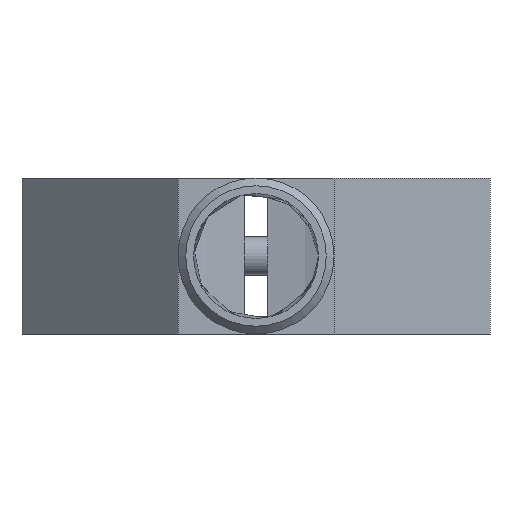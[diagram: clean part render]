
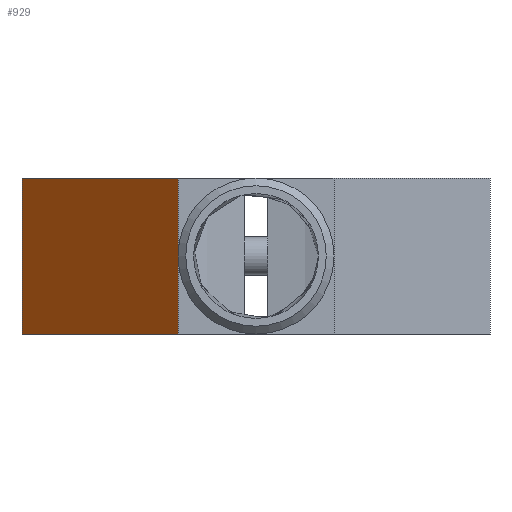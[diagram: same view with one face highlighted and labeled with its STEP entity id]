
A CAD part, front view. The second image highlights one B-rep face of the part: STEP entity #929.
In plain terms, the highlighted planar face has unit normal (-0.707, -0.707, 0).
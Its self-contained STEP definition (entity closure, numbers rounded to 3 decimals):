
#161=CARTESIAN_POINT('',(-10.,-35.,0.0));
#162=VERTEX_POINT('',#161);
#169=CARTESIAN_POINT('',(-30.,-15.,0.0));
#170=VERTEX_POINT('',#169);
#171=CARTESIAN_POINT('',(-30.,-15.,0.0));
#172=DIRECTION('',(0.707,-0.707,0.0));
#173=VECTOR('',#172,28.284);
#174=LINE('',#171,#173);
#175=EDGE_CURVE('',#170,#162,#174,.T.);
#469=CARTESIAN_POINT('',(-30.,-15.,20.0));
#470=VERTEX_POINT('',#469);
#477=CARTESIAN_POINT('',(-10.,-35.,20.0));
#478=VERTEX_POINT('',#477);
#479=CARTESIAN_POINT('',(-10.,-35.,20.0));
#480=DIRECTION('',(-0.707,0.707,0.0));
#481=VECTOR('',#480,28.284);
#482=LINE('',#479,#481);
#483=EDGE_CURVE('',#478,#470,#482,.T.);
#667=CARTESIAN_POINT('',(-10.,-35.,10.0));
#668=VERTEX_POINT('',#667);
#853=CARTESIAN_POINT('',(-10.,-35.,0.0));
#854=DIRECTION('',(0.0,0.0,1.0));
#855=VECTOR('',#854,10.0);
#856=LINE('',#853,#855);
#857=EDGE_CURVE('',#162,#668,#856,.T.);
#870=CARTESIAN_POINT('',(-10.,-35.,10.0));
#871=DIRECTION('',(0.0,0.0,1.0));
#872=VECTOR('',#871,10.0);
#873=LINE('',#870,#872);
#874=EDGE_CURVE('',#668,#478,#873,.T.);
#912=CARTESIAN_POINT('',(-20.,-25.,0.0));
#913=DIRECTION('',(-0.707,-0.707,0.0));
#914=DIRECTION('',(0.0,0.0,1.0));
#915=AXIS2_PLACEMENT_3D('',#912,#913,#914);
#916=PLANE('',#915);
#917=ORIENTED_EDGE('',*,*,#483,.T.);
#918=CARTESIAN_POINT('',(-30.,-15.,20.0));
#919=DIRECTION('',(0.0,0.0,-1.0));
#920=VECTOR('',#919,20.0);
#921=LINE('',#918,#920);
#922=EDGE_CURVE('',#470,#170,#921,.T.);
#923=ORIENTED_EDGE('',*,*,#922,.T.);
#924=ORIENTED_EDGE('',*,*,#175,.T.);
#925=ORIENTED_EDGE('',*,*,#857,.T.);
#926=ORIENTED_EDGE('',*,*,#874,.T.);
#927=EDGE_LOOP('',(#917,#923,#924,#925,#926));
#928=FACE_OUTER_BOUND('',#927,.T.);
#929=ADVANCED_FACE('',(#928),#916,.T.);
